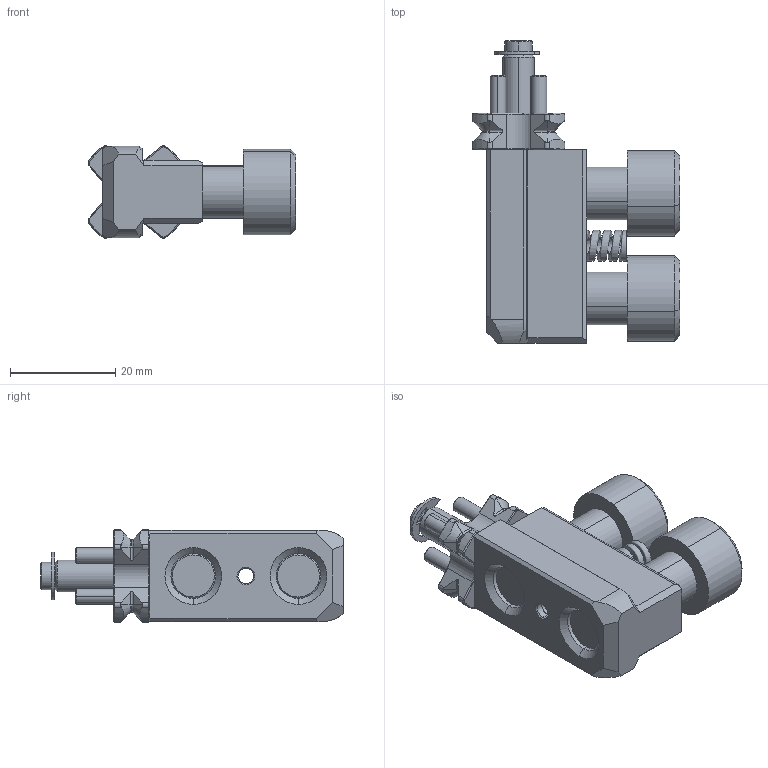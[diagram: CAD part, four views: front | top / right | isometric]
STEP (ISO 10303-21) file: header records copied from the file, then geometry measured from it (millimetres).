
FILE_DESCRIPTION (( 'STEP AP214' ), '1' );
FILE_NAME ('DHP-61P862219.STEP', '2023-10-06T05:31:27', ( '' ), ( '' ), 'SwSTEP 2.0', 'SolidWorks 2022', '' );
FILE_SCHEMA (( 'AUTOMOTIVE_DESIGN' ));
Length unit declared in the file: millimetre
Products named in the file (7): DHP-61P295170; 068AAA0644_自由長_25mm_(k=12.3N／mm); DHP-61P494596; 0080010316; 0030110025; 0286010004; DHP-61P862219
Assembly tree (10 placements, depth 2):
  DHP-61P862219
    DHP-61P295170
    DHP-61P494596
    0030110025  x2
    068AAA0644_自由長_25mm_(k=12.3N／mm)
    0080010316  x4
    0286010004
Bounding box: 39.5 x 57.5 x 17.59 mm (x, y, z)
Volume: 16586.1 mm3; surface area: 11037.8 mm2
Topology: 10 solids, 10 shells, 389 faces, 949 edges, 567 vertices
Faces by surface type: cone 148, plane 127, cylinder 96, torus 12, bspline 6
Entity records: 23162 total; most frequent: CARTESIAN_POINT 15300, DIRECTION 1527, ORIENTED_EDGE 1478, EDGE_CURVE 739, AXIS2_PLACEMENT_3D 572, VERTEX_POINT 452, VECTOR 383, LINE 383
